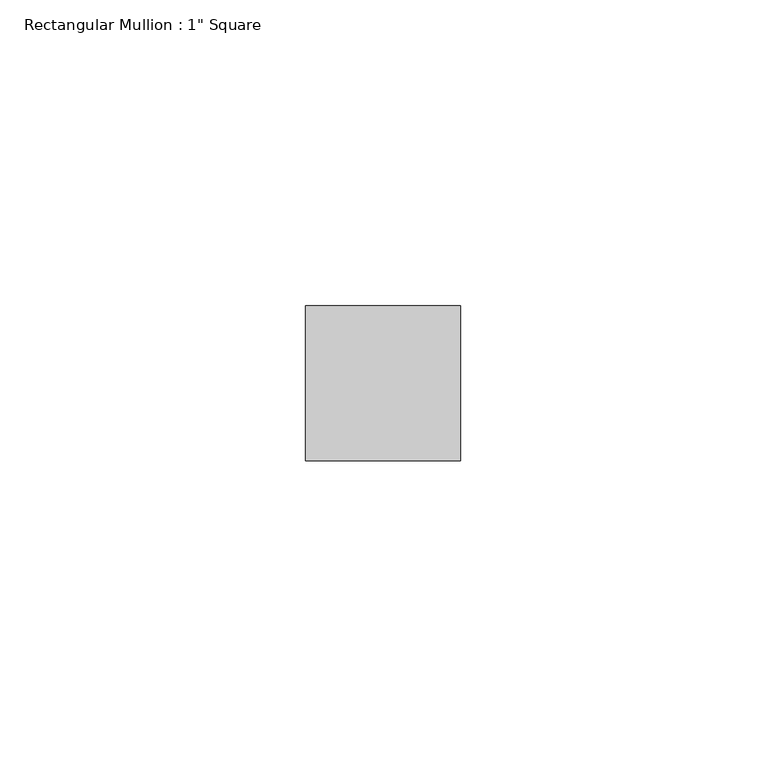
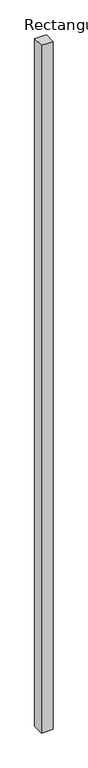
"""IFC4 building model written with IfcOpenShell, lengths in millimetres: member geometry."""

from ifc_helpers import new_model, si_unit, frame, origin, place, context, project, spatial, polyline, outline, extrude, source, transform, mapped, element, save


def member_18f2ae55(model_context):
    return source(origin(), model_context, "Body", "SweptSolid", [
        extrude(outline(polyline([(12.7, 12.7), (12.7, -12.7), (-12.7, -12.7), (-12.7, 12.7), (12.7, 12.7)])), frame((0.0, 0.0, -1587.2620497), z_axis=(0.0, 0.0, 1.0), x_axis=(1.0, 0.0, 0.0)), (0.0, 0.0, 1.0), 1587.2620497),
    ])


if __name__ == "__main__":
    model = new_model("IFC4")
    model_context = context("Model", 3, world=origin())
    ifc_project = project(units=[si_unit("LENGTHUNIT", "METRE", prefix="MILLI")], contexts=[model_context])
    site = spatial("IfcSite", under=ifc_project)
    building = spatial("IfcBuilding", under=site)
    placement = place(None, origin())
    member_shape = member_18f2ae55(model_context)
    element("IfcMember", 1, ObjectType="Rectangular Mullion : 1\" Square", at=placement, inside=building, context=model_context, shape_type="MappedRepresentation", body=[
        mapped(member_shape, transform((0.0, 0.0, 0.0), x_axis=(1.0, 0.0, 0.0), y_axis=(0.0, 1.0, 0.0), z_axis=(0.0, 0.0, 1.0))),
    ])
    save(model, "model.ifc")
